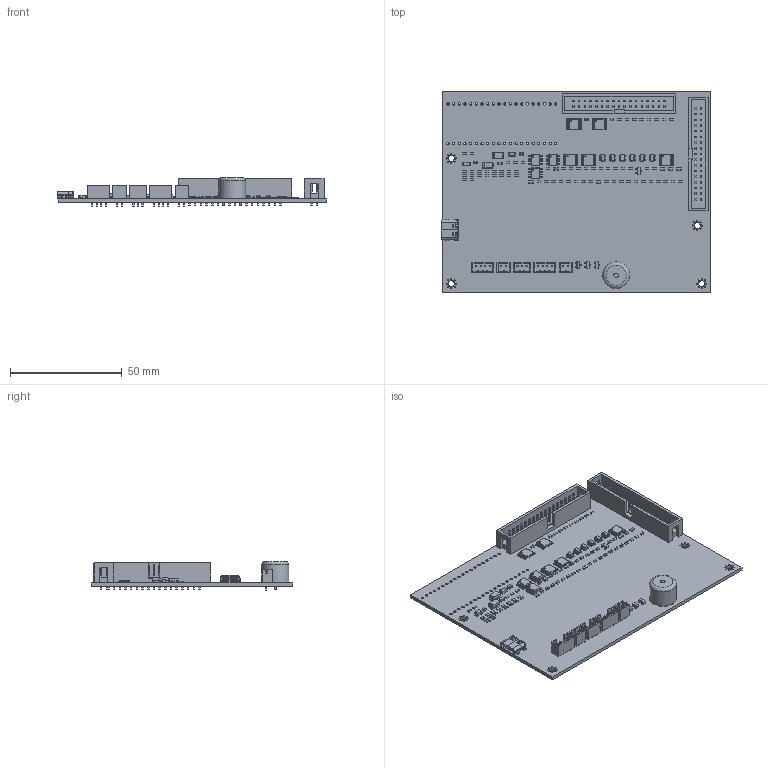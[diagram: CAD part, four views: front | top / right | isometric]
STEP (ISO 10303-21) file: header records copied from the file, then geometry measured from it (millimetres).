
FILE_DESCRIPTION(('KiCad electronic assembly'),'2;1');
FILE_NAME('messkarte.step','2026-10-30T22:39:43',('Pcbnew'),('Kicad'), 'Open CASCADE STEP processor 7.6','KiCad to STEP converter','Unknown' );
FILE_SCHEMA(('AUTOMOTIVE_DESIGN { 1 0 10303 214 1 1 1 1 }'));
Length unit declared in the file: millimetre
Products named in the file (36): messkarte 1; C_0603_1608Metric; R_0603_1608Metric; SOT-23-5; SOT_23_5; USB_C_Receptacle_GCT_USB4105-xx-A_16P_TopMnt_Horizontal; USB_C_Receptacle_16P_TopMnt_Horizontal_GCT_USB4105-xx-A; R_0805_2012Metric; TSSOP-16_4.4x5mm_P0.65mm; TSSOP_16_44x5mm_P065mm; SOT-23; SOT_23; C_0805_2012Metric; SOIC-8_3.9x4.9mm_P1.27mm; SOIC_8_39x49mm_P127mm; C_1206_3216Metric; JST_PH_B4B-PH-K_1x04_P2.00mm_Vertical; JST_B4B_PH_K; JST_PH_B2B-PH-K_1x02_P2.00mm_Vertical; JST_B2B_PH_K; D_SMA; L_0805_2012Metric; Buzzer_12x9.5RM7.6; Buzzer_12x95RM76; JST_PH_B3B-PH-K_1x03_P2.00mm_Vertical; JST_B3B_PH_K; IDC-Header_2x17_P2.54mm_Vertical; IDC_Header_2x17_P254mm_Vertical; messkarte PCB
Assembly tree (123 placements, depth 3):
  messkarte 1
    C_0603_1608Metric  x24
      C_0603_1608Metric
    R_0603_1608Metric  x42
      R_0603_1608Metric
    SOT-23-5  x6
      SOT_23_5
    USB_C_Receptacle_GCT_USB4105-xx-A_16P_TopMnt_Horizontal
      USB_C_Receptacle_16P_TopMnt_Horizontal_GCT_USB4105-xx-A
    R_0805_2012Metric  x5
      R_0805_2012Metric
    TSSOP-16_4.4x5mm_P0.65mm  x5
      TSSOP_16_44x5mm_P065mm
    SOT-23  x4
      SOT_23
    C_0805_2012Metric  x2
      C_0805_2012Metric
    SOIC-8_3.9x4.9mm_P1.27mm  x3
      SOIC_8_39x49mm_P127mm
    C_1206_3216Metric  x2
      C_1206_3216Metric
    JST_PH_B4B-PH-K_1x04_P2.00mm_Vertical  x2
      JST_B4B_PH_K
    JST_PH_B2B-PH-K_1x02_P2.00mm_Vertical  x2
      JST_B2B_PH_K
    D_SMA  x2
      D_SMA
    L_0805_2012Metric
      L_0805_2012Metric
    Buzzer_12x9.5RM7.6
      Buzzer_12x95RM76
    JST_PH_B3B-PH-K_1x03_P2.00mm_Vertical
      JST_B3B_PH_K
    IDC-Header_2x17_P2.54mm_Vertical  x2
      IDC_Header_2x17_P254mm_Vertical
    messkarte PCB
Bounding box: 120.5 x 90 x 12.93 mm (x, y, z)
Volume: 23186.3 mm3; surface area: 33698 mm2
Topology: 141 solids, 141 shells, 7663 faces, 19513 edges, 12358 vertices
Faces by surface type: plane 5454, cylinder 1659, bspline 538, cone 8, torus 4
Full cylindrical faces by diameter (mm): 0.5 x39, 0.6 x3, 0.65 x2, 0.75 x15, 0.9 x2, 1 x82, 1.02 x40, 2 x1, 2.7 x4, 12 x1
Entity records: 192741 total; most frequent: CARTESIAN_POINT 34551, DIRECTION 25934, LINE 17990, VECTOR 17990, ORIENTED_EDGE 13808, PCURVE 13808, DEFINITIONAL_REPRESENTATION 13808, EDGE_CURVE 6904
